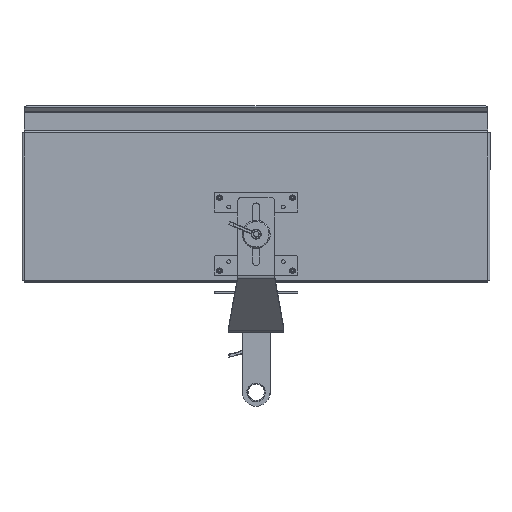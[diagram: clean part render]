
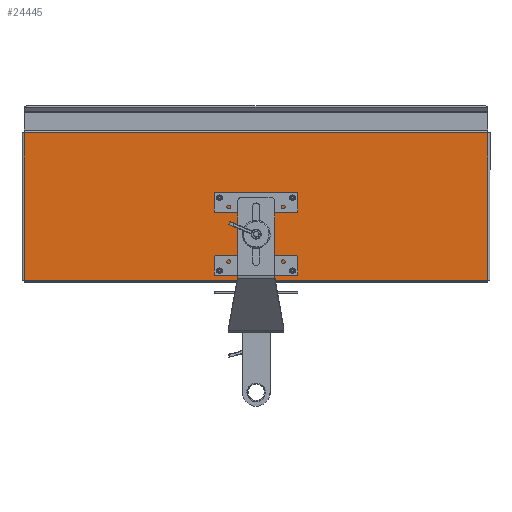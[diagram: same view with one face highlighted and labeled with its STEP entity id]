
A CAD part, front view. The second image highlights one B-rep face of the part: STEP entity #24445.
In plain terms, the highlighted planar face has unit normal (0, -1, 0).
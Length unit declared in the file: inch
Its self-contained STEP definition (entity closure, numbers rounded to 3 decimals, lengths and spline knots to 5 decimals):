
#65 = CIRCLE ( 'NONE', #28234, 0.09504 ) ;
#395 = CIRCLE ( 'NONE', #1433, 0.09504 ) ;
#763 = ORIENTED_EDGE ( 'NONE', *, *, #30900, .F. ) ;
#1127 = EDGE_LOOP ( 'NONE', ( #27026, #28299 ) ) ;
#1391 = CIRCLE ( 'NONE', #6551, 0.09504 ) ;
#1433 = AXIS2_PLACEMENT_3D ( 'NONE', #25225, #5518, #3274 ) ;
#1595 = AXIS2_PLACEMENT_3D ( 'NONE', #9055, #30339, #3429 ) ;
#1681 = CARTESIAN_POINT ( 'NONE',  ( -1.9685, -0.09, -3.4685 ) ) ;
#1724 = LINE ( 'NONE', #4299, #4271 ) ;
#1762 = CARTESIAN_POINT ( 'NONE',  ( -12.5, -0.09, -4. ) ) ;
#1893 = VECTOR ( 'NONE', #9301, 39.37008 ) ;
#1917 = FACE_BOUND ( 'NONE', #7214, .T. ) ;
#2074 = CIRCLE ( 'NONE', #2569, 0.09504 ) ;
#2498 = EDGE_CURVE ( 'NONE', #31675, #5468, #2074, .T. ) ;
#2569 = AXIS2_PLACEMENT_3D ( 'NONE', #17690, #27301, #14968 ) ;
#3274 = DIRECTION ( 'NONE',  ( 0., 0., -1. ) ) ;
#3429 = DIRECTION ( 'NONE',  ( 0., 0., -1. ) ) ;
#3586 = CARTESIAN_POINT ( 'NONE',  ( 12.5, -0.09, 3.968 ) ) ;
#3694 = FACE_BOUND ( 'NONE', #1127, .T. ) ;
#3701 = EDGE_CURVE ( 'NONE', #5468, #31675, #7232, .T. ) ;
#3737 = ORIENTED_EDGE ( 'NONE', *, *, #15728, .F. ) ;
#3960 = CARTESIAN_POINT ( 'NONE',  ( -12.5, -0.09, -4. ) ) ;
#4173 = DIRECTION ( 'NONE',  ( 0., -1., 0. ) ) ;
#4271 = VECTOR ( 'NONE', #8612, 39.37008 ) ;
#4299 = CARTESIAN_POINT ( 'NONE',  ( 12.5, -0.09, 3.968 ) ) ;
#5090 = CARTESIAN_POINT ( 'NONE',  ( 12.5, -0.09, -4. ) ) ;
#5110 = EDGE_CURVE ( 'NONE', #19046, #13349, #31666, .T. ) ;
#5398 = VERTEX_POINT ( 'NONE', #23342 ) ;
#5468 = VERTEX_POINT ( 'NONE', #31170 ) ;
#5518 = DIRECTION ( 'NONE',  ( 0., -1., 0. ) ) ;
#5522 = AXIS2_PLACEMENT_3D ( 'NONE', #18408, #8158, #10419 ) ;
#5559 = DIRECTION ( 'NONE',  ( 0., 0., -1. ) ) ;
#6477 = ORIENTED_EDGE ( 'NONE', *, *, #14424, .F. ) ;
#6551 = AXIS2_PLACEMENT_3D ( 'NONE', #9429, #7005, #16788 ) ;
#6739 = PLANE ( 'NONE',  #25155 ) ;
#6944 = CARTESIAN_POINT ( 'NONE',  ( -1.9685, -0.09, 0.56354 ) ) ;
#7005 = DIRECTION ( 'NONE',  ( 0., -1., 0. ) ) ;
#7214 = EDGE_LOOP ( 'NONE', ( #3737, #17803 ) ) ;
#7232 = CIRCLE ( 'NONE', #1595, 0.09504 ) ;
#8158 = DIRECTION ( 'NONE',  ( 0., -1., 0. ) ) ;
#8612 = DIRECTION ( 'NONE',  ( -1., 0., 0. ) ) ;
#8620 = CARTESIAN_POINT ( 'NONE',  ( 1.9685, -0.09, 0.56354 ) ) ;
#8775 = EDGE_CURVE ( 'NONE', #25994, #16173, #65, .T. ) ;
#9055 = CARTESIAN_POINT ( 'NONE',  ( -1.9685, -0.09, 0.4685 ) ) ;
#9113 = DIRECTION ( 'NONE',  ( 0., -1., 0. ) ) ;
#9301 = DIRECTION ( 'NONE',  ( -1., 0., 0. ) ) ;
#9429 = CARTESIAN_POINT ( 'NONE',  ( 1.9685, -0.09, 0.4685 ) ) ;
#9920 = DIRECTION ( 'NONE',  ( 0., 0., -1. ) ) ;
#10419 = DIRECTION ( 'NONE',  ( 0., 0., -1. ) ) ;
#10586 = CARTESIAN_POINT ( 'NONE',  ( -12.5, -0.09, 3.968 ) ) ;
#10955 = CARTESIAN_POINT ( 'NONE',  ( 1.9685, -0.09, -3.56354 ) ) ;
#11161 = CIRCLE ( 'NONE', #5522, 0.09504 ) ;
#11719 = CARTESIAN_POINT ( 'NONE',  ( 0., -0.09, 0. ) ) ;
#11854 = ORIENTED_EDGE ( 'NONE', *, *, #3701, .F. ) ;
#12026 = VERTEX_POINT ( 'NONE', #10586 ) ;
#12953 = DIRECTION ( 'NONE',  ( 0., -1., 0. ) ) ;
#13349 = VERTEX_POINT ( 'NONE', #17777 ) ;
#13421 = VECTOR ( 'NONE', #9920, 39.37008 ) ;
#13934 = ORIENTED_EDGE ( 'NONE', *, *, #29252, .T. ) ;
#14424 = EDGE_CURVE ( 'NONE', #13349, #22773, #21464, .T. ) ;
#14910 = EDGE_CURVE ( 'NONE', #5398, #23878, #1391, .T. ) ;
#14968 = DIRECTION ( 'NONE',  ( 0., 0., -1. ) ) ;
#15728 = EDGE_CURVE ( 'NONE', #23878, #5398, #11161, .T. ) ;
#16173 = VERTEX_POINT ( 'NONE', #20259 ) ;
#16186 = EDGE_CURVE ( 'NONE', #18481, #30420, #395, .T. ) ;
#16200 = DIRECTION ( 'NONE',  ( 0., 0., -1. ) ) ;
#16353 = FACE_OUTER_BOUND ( 'NONE', #26271, .T. ) ;
#16788 = DIRECTION ( 'NONE',  ( 0., 0., -1. ) ) ;
#17690 = CARTESIAN_POINT ( 'NONE',  ( -1.9685, -0.09, 0.4685 ) ) ;
#17777 = CARTESIAN_POINT ( 'NONE',  ( 12.5, -0.09, -4. ) ) ;
#17803 = ORIENTED_EDGE ( 'NONE', *, *, #14910, .F. ) ;
#18408 = CARTESIAN_POINT ( 'NONE',  ( 1.9685, -0.09, 0.4685 ) ) ;
#18481 = VERTEX_POINT ( 'NONE', #27349 ) ;
#18533 = EDGE_LOOP ( 'NONE', ( #23440, #11854 ) ) ;
#19036 = DIRECTION ( 'NONE',  ( 0., 0., -1. ) ) ;
#19046 = VERTEX_POINT ( 'NONE', #3586 ) ;
#19954 = AXIS2_PLACEMENT_3D ( 'NONE', #29271, #12953, #5559 ) ;
#20135 = ORIENTED_EDGE ( 'NONE', *, *, #16186, .F. ) ;
#20259 = CARTESIAN_POINT ( 'NONE',  ( -1.9685, -0.09, -3.37346 ) ) ;
#21004 = CIRCLE ( 'NONE', #19954, 0.09504 ) ;
#21085 = CIRCLE ( 'NONE', #24658, 0.09504 ) ;
#21244 = DIRECTION ( 'NONE',  ( 0., -1., 0. ) ) ;
#21398 = DIRECTION ( 'NONE',  ( 0., 0., -1. ) ) ;
#21440 = CARTESIAN_POINT ( 'NONE',  ( -1.9685, -0.09, -3.4685 ) ) ;
#21464 = LINE ( 'NONE', #31211, #1893 ) ;
#21638 = LINE ( 'NONE', #1762, #30728 ) ;
#21692 = CARTESIAN_POINT ( 'NONE',  ( -1.9685, -0.09, -3.56354 ) ) ;
#22642 = EDGE_CURVE ( 'NONE', #30420, #18481, #21004, .T. ) ;
#22773 = VERTEX_POINT ( 'NONE', #3960 ) ;
#23342 = CARTESIAN_POINT ( 'NONE',  ( 1.9685, -0.09, 0.37346 ) ) ;
#23440 = ORIENTED_EDGE ( 'NONE', *, *, #2498, .F. ) ;
#23870 = FACE_BOUND ( 'NONE', #31275, .T. ) ;
#23878 = VERTEX_POINT ( 'NONE', #8620 ) ;
#24445 = ADVANCED_FACE ( 'NONE', ( #23870, #30579, #1917, #3694, #16353 ), #6739, .T. ) ;
#24658 = AXIS2_PLACEMENT_3D ( 'NONE', #21440, #9113, #19036 ) ;
#25155 = AXIS2_PLACEMENT_3D ( 'NONE', #11719, #4173, #16200 ) ;
#25225 = CARTESIAN_POINT ( 'NONE',  ( 1.9685, -0.09, -3.4685 ) ) ;
#25994 = VERTEX_POINT ( 'NONE', #21692 ) ;
#26111 = DIRECTION ( 'NONE',  ( 0., 0., 1. ) ) ;
#26271 = EDGE_LOOP ( 'NONE', ( #28696, #13934, #763, #6477 ) ) ;
#27026 = ORIENTED_EDGE ( 'NONE', *, *, #28295, .F. ) ;
#27301 = DIRECTION ( 'NONE',  ( 0., -1., 0. ) ) ;
#27349 = CARTESIAN_POINT ( 'NONE',  ( 1.9685, -0.09, -3.37346 ) ) ;
#28234 = AXIS2_PLACEMENT_3D ( 'NONE', #1681, #21244, #21398 ) ;
#28295 = EDGE_CURVE ( 'NONE', #16173, #25994, #21085, .T. ) ;
#28299 = ORIENTED_EDGE ( 'NONE', *, *, #8775, .F. ) ;
#28696 = ORIENTED_EDGE ( 'NONE', *, *, #5110, .F. ) ;
#29252 = EDGE_CURVE ( 'NONE', #19046, #12026, #1724, .T. ) ;
#29271 = CARTESIAN_POINT ( 'NONE',  ( 1.9685, -0.09, -3.4685 ) ) ;
#30339 = DIRECTION ( 'NONE',  ( 0., -1., 0. ) ) ;
#30420 = VERTEX_POINT ( 'NONE', #10955 ) ;
#30440 = ORIENTED_EDGE ( 'NONE', *, *, #22642, .F. ) ;
#30579 = FACE_BOUND ( 'NONE', #18533, .T. ) ;
#30728 = VECTOR ( 'NONE', #26111, 39.37008 ) ;
#30900 = EDGE_CURVE ( 'NONE', #22773, #12026, #21638, .T. ) ;
#31170 = CARTESIAN_POINT ( 'NONE',  ( -1.9685, -0.09, 0.37346 ) ) ;
#31211 = CARTESIAN_POINT ( 'NONE',  ( 12.5, -0.09, -4. ) ) ;
#31275 = EDGE_LOOP ( 'NONE', ( #20135, #30440 ) ) ;
#31666 = LINE ( 'NONE', #5090, #13421 ) ;
#31675 = VERTEX_POINT ( 'NONE', #6944 ) ;
